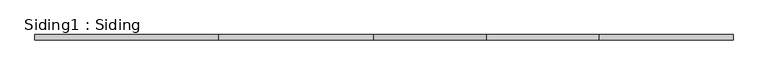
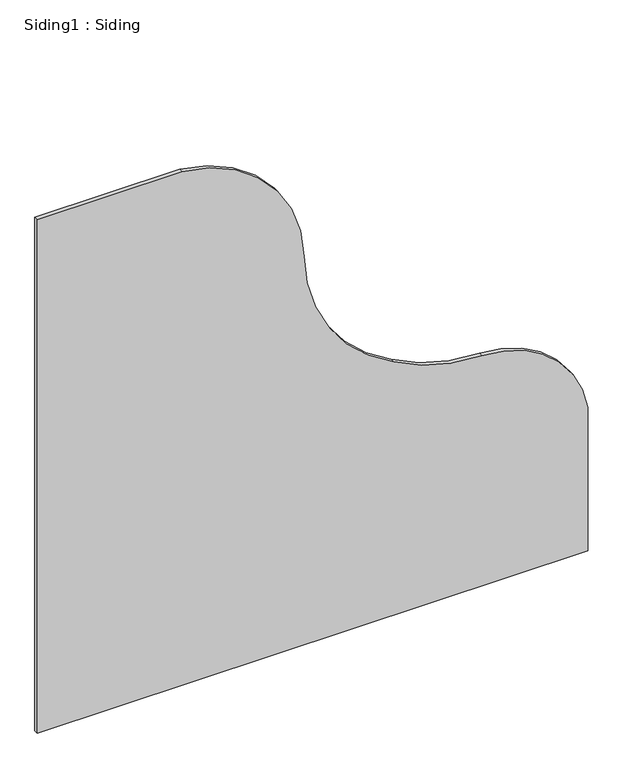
"""IFC4 building model written with IfcOpenShell, lengths in millimetres: proxy geometry, Siding1 : Siding."""

from ifc_helpers import new_model, si_unit, point, frame, frame_2d, origin, place, context, project, spatial, polyline, circle_curve, trimmed, segment, composite_curve, outline, extrude, source, transform, mapped, element, save


def siding1_siding_7341e546(model_context):
    return source(origin(), model_context, "Body", "SweptSolid", [
        extrude(outline(composite_curve([segment(polyline([(-19.05, -1404.7179718), (326.9760682, -1404.7179718)]), True, "CONTINUOUS"), segment(trimmed(circle_curve(frame_2d((286.9857554, -1650.0282857)), 248.5485369), [point((326.9760682, -1404.7179718))], [point((535.510358, -1646.5790677))], False, "CARTESIAN"), True, "CONTINUOUS"), segment(trimmed(circle_curve(frame_2d((948.5891228, -1640.8460388)), 413.1185466), [point((535.510358, -1646.5790677))], [point((591.8706469, -1849.2179718))], True, "CARTESIAN"), True, "CONTINUOUS"), segment(trimmed(circle_curve(frame_2d((925.1337293, -1678.455762)), 374.4649709), [point((591.8706469, -1849.2179718))], [point((918.4023164, -2052.8602258))], True, "CARTESIAN"), True, "CONTINUOUS"), segment(trimmed(circle_curve(frame_2d((912.871688, -2360.4764748)), 307.6659626), [point((918.4023164, -2052.8602258))], [point((1219.2, -2331.8179718))], False, "CARTESIAN"), True, "CONTINUOUS"), segment(polyline([(1219.2, -2331.8179718), (1219.2, -2662.0179718), (-19.05, -2662.0179718), (-19.05, -1404.7179718)]), True, "CONTINUOUS")], self_intersect=False)), frame((0.0, 33355.10733, 0.0), z_axis=(0.0, 1.0, 0.0), x_axis=(0.0, 0.0, 1.0)), (0.0, 0.0, 1.0), 9.525),
    ])


if __name__ == "__main__":
    model = new_model("IFC4")
    model_context = context("Model", 3, world=origin())
    ifc_project = project(units=[si_unit("LENGTHUNIT", "METRE", prefix="MILLI")], contexts=[model_context])
    site = spatial("IfcSite", under=ifc_project)
    building = spatial("IfcBuilding", under=site)
    placement = place(None, origin())
    siding1_siding_shape = siding1_siding_7341e546(model_context)
    element("IfcBuildingElementProxy", 1, Name="Siding1 : Siding", ObjectType="Siding1 : Siding", at=placement, inside=building, context=model_context, shape_type="MappedRepresentation", body=[
        mapped(siding1_siding_shape, transform((0.0, 0.0, 0.0), x_axis=(1.0, 0.0, 0.0), y_axis=(0.0, 1.0, 0.0), z_axis=(0.0, 0.0, 1.0))),
    ])
    save(model, "model.ifc")
